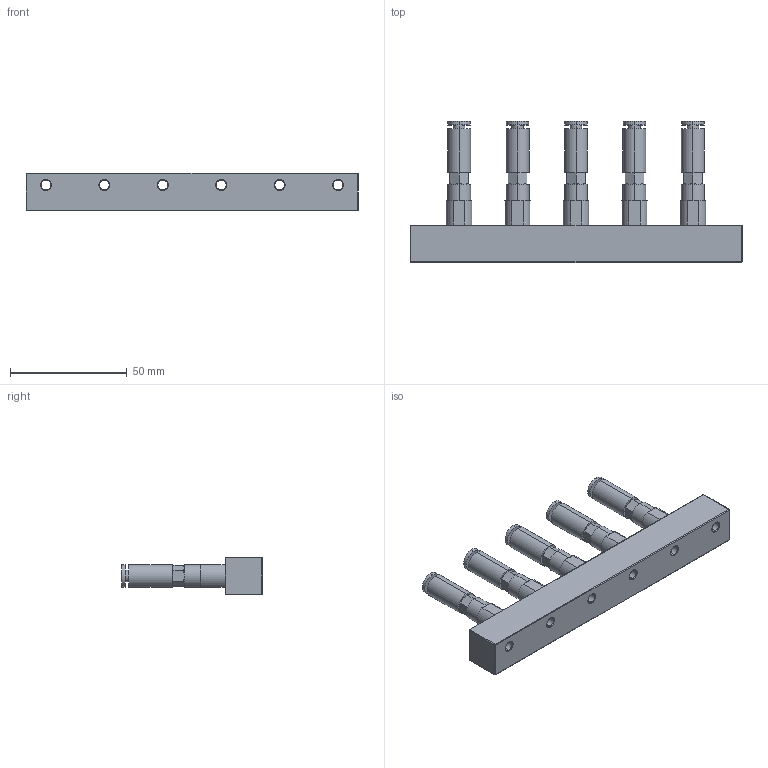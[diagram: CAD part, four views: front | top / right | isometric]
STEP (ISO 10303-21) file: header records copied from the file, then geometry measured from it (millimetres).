
FILE_DESCRIPTION (( 'STEP AP203' ), '1' );
FILE_NAME ('04.STEP', '2024-10-22T09:18:04', ( '' ), ( '' ), 'SwSTEP 2.0', 'SolidWorks 2018', '' );
FILE_SCHEMA (( 'CONFIG_CONTROL_DESIGN' ));
Length unit declared in the file: millimetre
Products named in the file (3): 04; KCH04-M5; 等砃諉芛耀輸
Assembly tree (6 placements, depth 2):
  04
    等砃諉芛耀輸
    KCH04-M5  x5
Bounding box: 142 x 60.3 x 16 mm (x, y, z)
Volume: 49076 mm3; surface area: 20730.5 mm2
Topology: 6 solids, 6 shells, 333 faces, 702 edges, 414 vertices
Faces by surface type: cylinder 116, plane 107, cone 90, torus 12, sphere 8
Entity records: 4695 total; most frequent: DIRECTION 820, CARTESIAN_POINT 770, ORIENTED_EDGE 668, AXIS2_PLACEMENT_3D 344, EDGE_CURVE 334, VERTEX_POINT 198, EDGE_LOOP 186, CIRCLE 178
